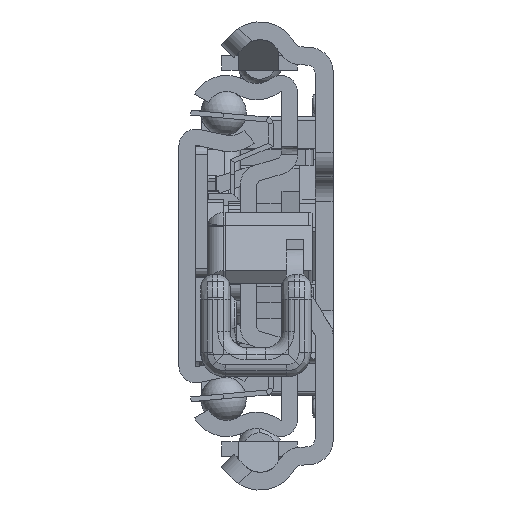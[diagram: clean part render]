
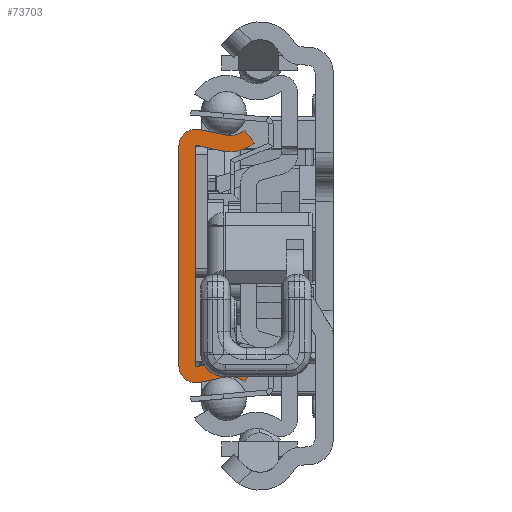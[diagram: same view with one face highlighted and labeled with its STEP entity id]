
A CAD part, left-side view. The second image highlights one B-rep face of the part: STEP entity #73703.
In plain terms, the highlighted planar face has unit normal (-1, 0, 0).
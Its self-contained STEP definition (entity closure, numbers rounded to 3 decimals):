
#68297=CARTESIAN_POINT('',(0.,-6.29,-17.65));
#68298=DIRECTION('',(-1.,0.,0.));
#68299=DIRECTION('',(0.,-0.629,0.778));
#68300=AXIS2_PLACEMENT_3D('',#68297,#68298,#68299);
#68302=DIRECTION('',(0.,0.977,-0.213));
#68303=VECTOR('',#68302,3.218);
#68304=CARTESIAN_POINT('',(0.,-5.692,-14.915));
#68305=LINE('',#68304,#68303);
#68306=CARTESIAN_POINT('',(0.,-2.1,-13.55));
#68307=DIRECTION('',(1.,0.,0.));
#68308=DIRECTION('',(0.,-0.213,-0.977));
#68309=AXIS2_PLACEMENT_3D('',#68306,#68307,#68308);
#68311=DIRECTION('',(0.,0.,1.));
#68312=VECTOR('',#68311,27.1);
#68313=CARTESIAN_POINT('',(0.,0.,-13.55));
#68314=LINE('',#68313,#68312);
#68315=CARTESIAN_POINT('',(0.,-2.1,13.55));
#68316=DIRECTION('',(1.,0.,0.));
#68317=DIRECTION('',(0.,1.,0.));
#68318=AXIS2_PLACEMENT_3D('',#68315,#68316,#68317);
#68320=DIRECTION('',(0.,-0.977,-0.213));
#68321=VECTOR('',#68320,3.218);
#68322=CARTESIAN_POINT('',(0.,-2.548,15.602));
#68323=LINE('',#68322,#68321);
#68324=CARTESIAN_POINT('',(0.,-6.29,17.65));
#68325=DIRECTION('',(-1.,0.,0.));
#68326=DIRECTION('',(0.,0.213,-0.977));
#68327=AXIS2_PLACEMENT_3D('',#68324,#68325,#68326);
#68329=DIRECTION('',(0.,-0.629,-0.778));
#68330=VECTOR('',#68329,2.);
#68331=CARTESIAN_POINT('',(0.,-8.05,15.472));
#68332=LINE('',#68331,#68330);
#68333=CARTESIAN_POINT('',(0.,-6.29,17.65));
#68334=DIRECTION('',(1.,0.,0.));
#68335=DIRECTION('',(0.,-0.629,-0.778));
#68336=AXIS2_PLACEMENT_3D('',#68333,#68334,#68335);
#68338=DIRECTION('',(0.,0.977,0.213));
#68339=VECTOR('',#68338,3.218);
#68340=CARTESIAN_POINT('',(0.,-5.265,12.961));
#68341=LINE('',#68340,#68339);
#68342=CARTESIAN_POINT('',(0.,-2.1,13.55));
#68343=DIRECTION('',(-1.,0.,0.));
#68344=DIRECTION('',(0.,-0.213,0.977));
#68345=AXIS2_PLACEMENT_3D('',#68342,#68343,#68344);
#68347=DIRECTION('',(0.,0.,-1.));
#68348=VECTOR('',#68347,27.1);
#68349=CARTESIAN_POINT('',(0.,-2.,13.55));
#68350=LINE('',#68349,#68348);
#68351=CARTESIAN_POINT('',(0.,-2.1,-13.55));
#68352=DIRECTION('',(-1.,0.,0.));
#68353=DIRECTION('',(0.,1.,0.));
#68354=AXIS2_PLACEMENT_3D('',#68351,#68352,#68353);
#68356=DIRECTION('',(0.,-0.977,0.213));
#68357=VECTOR('',#68356,3.218);
#68358=CARTESIAN_POINT('',(0.,-2.121,-13.648));
#68359=LINE('',#68358,#68357);
#68360=CARTESIAN_POINT('',(0.,-6.29,-17.65));
#68361=DIRECTION('',(1.,0.,0.));
#68362=DIRECTION('',(0.,0.213,0.977));
#68363=AXIS2_PLACEMENT_3D('',#68360,#68361,#68362);
#68365=DIRECTION('',(0.,0.629,-0.778));
#68366=VECTOR('',#68365,2.);
#68367=CARTESIAN_POINT('',(0.,-9.307,-13.917));
#68368=LINE('',#68367,#68366);
#72345=CARTESIAN_POINT('',(0.,-8.05,-15.472));
#72346=CARTESIAN_POINT('',(0.,-5.692,-14.915));
#72347=VERTEX_POINT('',#72345);
#72348=VERTEX_POINT('',#72346);
#72349=CARTESIAN_POINT('',(0.,-2.548,-15.602));
#72350=VERTEX_POINT('',#72349);
#72351=CARTESIAN_POINT('',(0.,0.,-13.55));
#72352=VERTEX_POINT('',#72351);
#72353=CARTESIAN_POINT('',(0.,0.,13.55));
#72354=VERTEX_POINT('',#72353);
#72355=CARTESIAN_POINT('',(0.,-2.548,15.602));
#72356=VERTEX_POINT('',#72355);
#72357=CARTESIAN_POINT('',(0.,-5.692,14.915));
#72358=VERTEX_POINT('',#72357);
#72359=CARTESIAN_POINT('',(0.,-8.05,15.472));
#72360=VERTEX_POINT('',#72359);
#72361=CARTESIAN_POINT('',(0.,-9.307,13.917));
#72362=VERTEX_POINT('',#72361);
#72363=CARTESIAN_POINT('',(0.,-5.265,12.961));
#72364=VERTEX_POINT('',#72363);
#72365=CARTESIAN_POINT('',(0.,-2.121,13.648));
#72366=VERTEX_POINT('',#72365);
#72367=CARTESIAN_POINT('',(0.,-2.,13.55));
#72368=VERTEX_POINT('',#72367);
#72369=CARTESIAN_POINT('',(0.,-2.,-13.55));
#72370=VERTEX_POINT('',#72369);
#72371=CARTESIAN_POINT('',(0.,-2.121,-13.648));
#72372=VERTEX_POINT('',#72371);
#72373=CARTESIAN_POINT('',(0.,-5.265,-12.961));
#72374=VERTEX_POINT('',#72373);
#72375=CARTESIAN_POINT('',(0.,-9.307,-13.917));
#72376=VERTEX_POINT('',#72375);
#73667=CARTESIAN_POINT('',(0.,0.,0.));
#73668=DIRECTION('',(1.,0.,0.));
#73669=DIRECTION('',(0.,-1.,0.));
#73670=AXIS2_PLACEMENT_3D('',#73667,#73668,#73669);
#73671=PLANE('',#73670);
#73672=ORIENTED_EDGE('',*,*,#73361,.T.);
#73673=ORIENTED_EDGE('',*,*,#73609,.T.);
#73675=ORIENTED_EDGE('',*,*,#73674,.T.);
#73677=ORIENTED_EDGE('',*,*,#73676,.T.);
#73679=ORIENTED_EDGE('',*,*,#73678,.T.);
#73681=ORIENTED_EDGE('',*,*,#73680,.T.);
#73683=ORIENTED_EDGE('',*,*,#73682,.T.);
#73685=ORIENTED_EDGE('',*,*,#73684,.T.);
#73687=ORIENTED_EDGE('',*,*,#73686,.T.);
#73689=ORIENTED_EDGE('',*,*,#73688,.T.);
#73691=ORIENTED_EDGE('',*,*,#73690,.T.);
#73693=ORIENTED_EDGE('',*,*,#73692,.T.);
#73695=ORIENTED_EDGE('',*,*,#73694,.T.);
#73697=ORIENTED_EDGE('',*,*,#73696,.T.);
#73699=ORIENTED_EDGE('',*,*,#73698,.T.);
#73700=ORIENTED_EDGE('',*,*,#73658,.T.);
#73701=EDGE_LOOP('',(#73672,#73673,#73675,#73677,#73679,#73681,#73683,#73685,
#73687,#73689,#73691,#73693,#73695,#73697,#73699,#73700));
#73702=FACE_OUTER_BOUND('',#73701,.F.);
#68301=CIRCLE('',#68300,2.8);
#68310=CIRCLE('',#68309,2.1);
#68319=CIRCLE('',#68318,2.1);
#68328=CIRCLE('',#68327,2.8);
#68337=CIRCLE('',#68336,4.8);
#68346=CIRCLE('',#68345,0.1);
#68355=CIRCLE('',#68354,0.1);
#68364=CIRCLE('',#68363,4.8);
#73361=EDGE_CURVE('',#72347,#72348,#68301,.T.);
#73609=EDGE_CURVE('',#72348,#72350,#68305,.T.);
#73658=EDGE_CURVE('',#72376,#72347,#68368,.T.);
#73674=EDGE_CURVE('',#72350,#72352,#68310,.T.);
#73676=EDGE_CURVE('',#72352,#72354,#68314,.T.);
#73678=EDGE_CURVE('',#72354,#72356,#68319,.T.);
#73680=EDGE_CURVE('',#72356,#72358,#68323,.T.);
#73682=EDGE_CURVE('',#72358,#72360,#68328,.T.);
#73684=EDGE_CURVE('',#72360,#72362,#68332,.T.);
#73686=EDGE_CURVE('',#72362,#72364,#68337,.T.);
#73688=EDGE_CURVE('',#72364,#72366,#68341,.T.);
#73690=EDGE_CURVE('',#72366,#72368,#68346,.T.);
#73692=EDGE_CURVE('',#72368,#72370,#68350,.T.);
#73694=EDGE_CURVE('',#72370,#72372,#68355,.T.);
#73696=EDGE_CURVE('',#72372,#72374,#68359,.T.);
#73698=EDGE_CURVE('',#72374,#72376,#68364,.T.);
#73703=ADVANCED_FACE('',(#73702),#73671,.F.);
